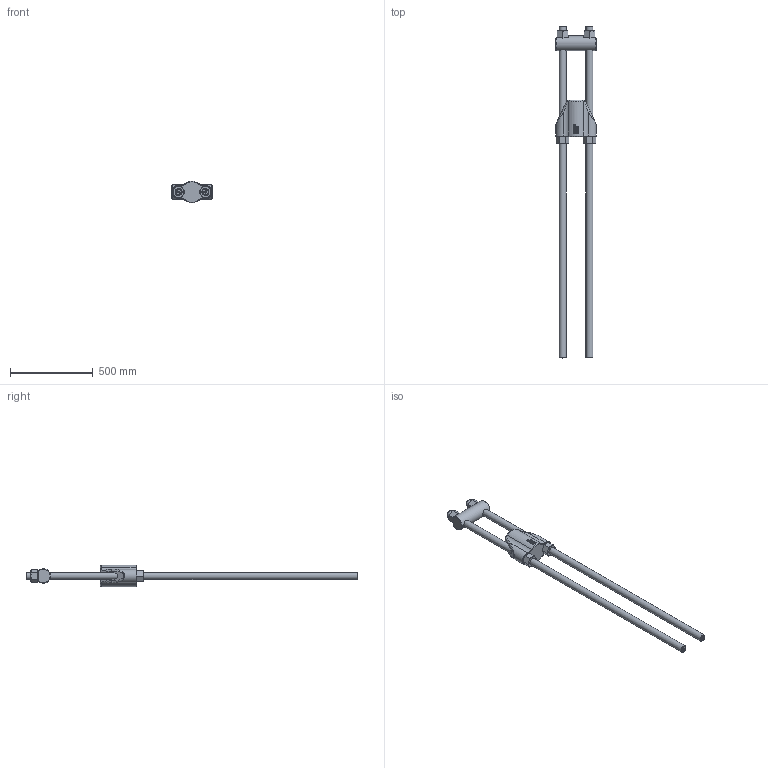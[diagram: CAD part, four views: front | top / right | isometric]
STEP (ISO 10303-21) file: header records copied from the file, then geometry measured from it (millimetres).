
FILE_DESCRIPTION(/* description */ (''),/* implementation_level */ '2;1');
FILE_NAME(/* name */ 'D:\Clienti\Redaelli (inventor)\BRC\STEP\Arrangemet\BRC040 72 111 0.stp',/* time_stamp */ '2021-05-08T08:25:01+02:00',/* author */ ('fabri'),/* organization */ (''),/* preprocessor_version */ 'ST-DEVELOPER v16.13',/* originating_system */ 'Autodesk Inventor 2018',/* authorisation */ '');
FILE_SCHEMA (('AUTOMOTIVE_DESIGN { 1 0 10303 214 3 1 1 }'));
Length unit declared in the file: millimetre
Products named in the file (5): BRC020 72 111 0; BRC020 71 112 0; BRC020 71 114 0_ROD; BRC020 71 113 0; BRC020 71 114 0_NUT
Assembly tree (8 placements, depth 2):
  BRC020 72 111 0
    BRC020 71 112 0
    BRC020 71 114 0_ROD  x2
    BRC020 71 113 0
    BRC020 71 114 0_NUT  x4
Bounding box: 242 x 2000 x 129.77 mm (x, y, z)
Volume: 10757179.3 mm3; surface area: 885599.6 mm2
Topology: 8 solids, 8 shells, 1498 faces, 3924 edges, 2584 vertices
Faces by surface type: plane 764, bspline 599, cone 62, cylinder 49, torus 20, sphere 4
Full cylindrical faces by diameter (mm): 38.752 x4, 42 x2, 44 x4, 88 x1
Entity records: 28986 total; most frequent: CARTESIAN_POINT 10889, ORIENTED_EDGE 4250, DIRECTION 2651, EDGE_CURVE 2125, VERTEX_POINT 1406, LINE 1207, VECTOR 1207, EDGE_LOOP 913
